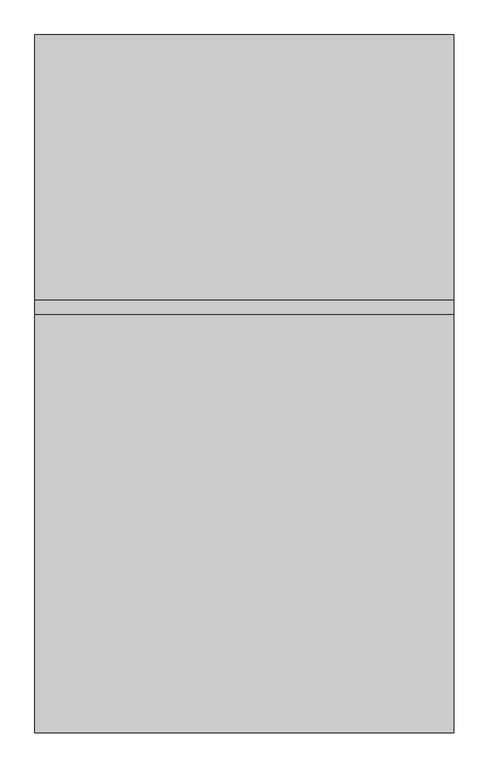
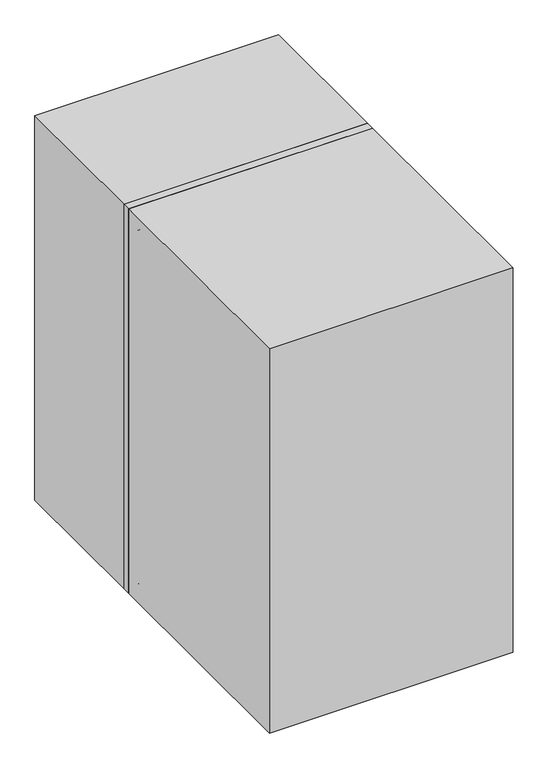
"""IFC4 building model written with IfcOpenShell, lengths in millimetres: electric distribution board geometry, НВО_НавесныеШкафыПрозрачнаяДверца_DKC : 400х600х1000 мм (ГхШхВ)."""

from ifc_helpers import new_model, si_unit, frame, origin, place, context, project, spatial, polyline, circle_curve, outline, extrude, faceted_brep, source, transform, mapped, element, save
from ifc_brep_helpers import plane_surface, cylinder_surface, revolved_surface, advanced_brep


def electric_distribution_board_64f9faa2(model_context):
    return source(origin(), model_context, "Body", "SolidModel", [
        advanced_brep(
        [(-270.4361714, -402.0, 1545.2522548), (-262.7599567, -402.0, 1545.2522548), (-259.2737072, -402.0, 1545.9237849), (-256.2188087, -402.0, 1550.0), (-259.2737072, -402.0, 1554.0762151), (-262.7599567, -402.0, 1554.7477452), (-270.4361714, -402.0, 1554.7477452), (-266.8662202, -402.0, 1553.4305842), (-264.3065187, -402.0, 1553.4305842), (-261.256417, -402.0, 1552.8023319), (-260.1514932, -402.0, 1551.4095765), (-260.0, -402.0, 1550.0), (-260.1514932, -402.0, 1548.5904235), (-261.256417, -402.0, 1547.1976681), (-264.3065187, -402.0, 1546.5694158), (-266.8662202, -402.0, 1546.5694158), (-270.4361714, -400.0, 1545.2522548), (-270.4361714, -400.0, 1554.7477452), (-262.7599567, -400.0, 1554.7477452), (-259.2737072, -400.0, 1554.0762151), (-256.2188087, -400.0, 1550.0), (-259.2737072, -400.0, 1545.9237849), (-262.7599567, -400.0, 1545.2522548), (-266.8662202, -400.0, 1553.4305842), (-266.8662202, -400.0, 1546.5694158), (-264.3065187, -400.0, 1546.5694158), (-261.256417, -400.0, 1547.1976681), (-260.1514932, -400.0, 1548.5904235), (-260.0, -400.0, 1550.0), (-260.1514932, -400.0, 1551.4095765), (-261.256417, -400.0, 1552.8023319), (-264.3065187, -400.0, 1553.4305842)],
        [
            (0, 1),
            (1, 2, circle_curve(frame((-262.7599567, -402.0, 1554.6374537), z_axis=(0.0, -1.0, 0.0), x_axis=(1.0, 0.0, 0.0)), 9.3851989)),
            (2, 3, circle_curve(frame((-261.0924825, -402.0, 1550.4697033), z_axis=(0.0, -1.0, 0.0), x_axis=(1.0, 0.0, 0.0)), 4.8962555)),
            (3, 4, circle_curve(frame((-261.0924825, -402.0, 1549.5302967), z_axis=(0.0, -1.0, 0.0), x_axis=(1.0, 0.0, 0.0)), 4.8962555)),
            (4, 5, circle_curve(frame((-262.7599567, -402.0, 1545.3625463), z_axis=(0.0, -1.0, 0.0), x_axis=(1.0, 0.0, 0.0)), 9.3851989)),
            (5, 6),
            (6, 0),
            (7, 8),
            (8, 9, circle_curve(frame((-264.3065187, -402.0, 1545.7124901), z_axis=(0.0, 1.0, 0.0), x_axis=(1.0, 0.0, 0.0)), 7.7180942)),
            (9, 10, circle_curve(frame((-261.9974842, -402.0, 1551.0797503), z_axis=(0.0, 1.0, 0.0), x_axis=(1.0, 0.0, 0.0)), 1.8752248)),
            (10, 11, circle_curve(frame((-270.1649135, -402.0, 1549.6204625), z_axis=(0.0, 1.0, 0.0), x_axis=(1.0, 0.0, 0.0)), 10.1719966)),
            (11, 12, circle_curve(frame((-270.1649135, -402.0, 1550.3795375), z_axis=(0.0, 1.0, 0.0), x_axis=(1.0, 0.0, 0.0)), 10.1719966)),
            (12, 13, circle_curve(frame((-261.9974842, -402.0, 1548.9202497), z_axis=(0.0, 1.0, 0.0), x_axis=(1.0, 0.0, 0.0)), 1.8752248)),
            (13, 14, circle_curve(frame((-264.3065187, -402.0, 1554.2875099), z_axis=(0.0, 1.0, 0.0), x_axis=(1.0, 0.0, 0.0)), 7.7180942)),
            (14, 15),
            (15, 7),
            (16, 17),
            (17, 18),
            (18, 19, circle_curve(frame((-262.7599567, -400.0, 1545.3625463), z_axis=(0.0, 1.0, 0.0), x_axis=(1.0, 0.0, 0.0)), 9.3851989)),
            (19, 20, circle_curve(frame((-261.0924825, -400.0, 1549.5302967), z_axis=(0.0, 1.0, 0.0), x_axis=(1.0, 0.0, 0.0)), 4.8962555)),
            (20, 21, circle_curve(frame((-261.0924825, -400.0, 1550.4697033), z_axis=(0.0, 1.0, 0.0), x_axis=(1.0, 0.0, 0.0)), 4.8962555)),
            (21, 22, circle_curve(frame((-262.7599567, -400.0, 1554.6374537), z_axis=(0.0, 1.0, 0.0), x_axis=(1.0, 0.0, 0.0)), 9.3851989)),
            (22, 16),
            (23, 24),
            (24, 25),
            (25, 26, circle_curve(frame((-264.3065187, -400.0, 1554.2875099), z_axis=(0.0, -1.0, 0.0), x_axis=(1.0, 0.0, 0.0)), 7.7180942)),
            (26, 27, circle_curve(frame((-261.9974842, -400.0, 1548.9202497), z_axis=(0.0, -1.0, 0.0), x_axis=(1.0, 0.0, 0.0)), 1.8752248)),
            (27, 28, circle_curve(frame((-270.1649135, -400.0, 1550.3795375), z_axis=(0.0, -1.0, 0.0), x_axis=(1.0, 0.0, 0.0)), 10.1719966)),
            (28, 29, circle_curve(frame((-270.1649135, -400.0, 1549.6204625), z_axis=(0.0, -1.0, 0.0), x_axis=(1.0, 0.0, 0.0)), 10.1719966)),
            (29, 30, circle_curve(frame((-261.9974842, -400.0, 1551.0797503), z_axis=(0.0, -1.0, 0.0), x_axis=(1.0, 0.0, 0.0)), 1.8752248)),
            (30, 31, circle_curve(frame((-264.3065187, -400.0, 1545.7124901), z_axis=(0.0, -1.0, 0.0), x_axis=(1.0, 0.0, 0.0)), 7.7180942)),
            (31, 23),
            (0, 16),
            (22, 1),
            (21, 2),
            (20, 3),
            (19, 4),
            (18, 5),
            (17, 6),
            (7, 23),
            (31, 8),
            (30, 9),
            (29, 10),
            (28, 11),
            (27, 12),
            (26, 13),
            (25, 14),
            (24, 15),
        ],
        [
            plane_surface(frame((-896.3609782, -402.0, 1545.2522548), z_axis=(0.0, -1.0, 0.0), x_axis=(1.0, 0.0, 0.0))),
            plane_surface(frame((-896.3609782, -400.0, 1545.2522548), z_axis=(0.0, 1.0, 0.0), x_axis=(-1.0, 0.0, 0.0))),
            plane_surface(frame((-270.4361714, -402.0, 1545.2522548), z_axis=(0.0, 0.0, -1.0), x_axis=(0.0, 1.0, 0.0))),
            cylinder_surface(frame((-262.7599567, -400.0, 1554.6374537), z_axis=(0.0, -1.0, 0.0), x_axis=(1.0, 0.0, 0.0)), 9.3851989),
            cylinder_surface(frame((-261.0924825, -400.0, 1550.4697033), z_axis=(0.0, -1.0, 0.0), x_axis=(1.0, 0.0, 0.0)), 4.8962555),
            cylinder_surface(frame((-261.0924825, -400.0, 1549.5302967), z_axis=(0.0, -1.0, 0.0), x_axis=(1.0, 0.0, 0.0)), 4.8962555),
            cylinder_surface(frame((-262.7599567, -400.0, 1545.3625463), z_axis=(0.0, -1.0, 0.0), x_axis=(1.0, 0.0, 0.0)), 9.3851989),
            plane_surface(frame((-262.7599567, -402.0, 1554.7477452), z_axis=(0.0, 0.0, 1.0), x_axis=(0.0, 1.0, 0.0))),
            plane_surface(frame((-270.4361714, -402.0, 1554.7477452), z_axis=(-1.0, 0.0, 0.0), x_axis=(0.0, 1.0, 0.0))),
            plane_surface(frame((-266.8662202, -402.0, 1553.4305842), z_axis=(0.0, 0.0, -1.0), x_axis=(0.0, 1.0, 0.0))),
            revolved_surface(polyline([(-256.58842450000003, -400.0, 1545.7124901), (-256.58842450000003, -402.0, 1545.7124901)]), (-264.3065187, -400.0, 1545.7124901), (0.0, 1.0, 0.0)),
            revolved_surface(polyline([(-260.12225939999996, -400.0, 1551.0797503), (-260.12225939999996, -402.0, 1551.0797503)]), (-261.9974842, -400.0, 1551.0797503), (0.0, 1.0, 0.0)),
            revolved_surface(polyline([(-259.9929169, -400.0, 1549.6204625), (-259.9929169, -402.0, 1549.6204625)]), (-270.1649135, -400.0, 1549.6204625), (0.0, 1.0, 0.0)),
            revolved_surface(polyline([(-259.9929169, -400.0, 1550.3795375), (-259.9929169, -402.0, 1550.3795375)]), (-270.1649135, -400.0, 1550.3795375), (0.0, 1.0, 0.0)),
            revolved_surface(polyline([(-260.12225939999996, -400.0, 1548.9202497), (-260.12225939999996, -402.0, 1548.9202497)]), (-261.9974842, -400.0, 1548.9202497), (0.0, 1.0, 0.0)),
            revolved_surface(polyline([(-256.58842450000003, -400.0, 1554.2875099), (-256.58842450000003, -402.0, 1554.2875099)]), (-264.3065187, -400.0, 1554.2875099), (0.0, 1.0, 0.0)),
            plane_surface(frame((-264.3065187, -402.0, 1546.5694158), z_axis=(0.0, 0.0, 1.0), x_axis=(0.0, 1.0, 0.0))),
            plane_surface(frame((-266.8662202, -402.0, 1546.5694158), z_axis=(1.0, 0.0, 0.0), x_axis=(0.0, 1.0, 0.0))),
        ],
        [
            (0, [[1, 2, 3, 4, 5, 6, 7], [8, 9, 10, 11, 12, 13, 14, 15, 16]]),
            (1, [[17, 18, 19, 20, 21, 22, 23], [24, 25, 26, 27, 28, 29, 30, 31, 32]]),
            (2, [[-1, 33, -23, 34]]),
            (3, [[-2, -34, -22, 35]]),
            (4, [[-3, -35, -21, 36]]),
            (5, [[-4, -36, -20, 37]]),
            (6, [[-5, -37, -19, 38]]),
            (7, [[-6, -38, -18, 39]]),
            (8, [[-7, -39, -17, -33]]),
            (9, [[-8, 40, -32, 41]]),
            (10, [[-9, -41, -31, 42]]),
            (11, [[-10, -42, -30, 43]]),
            (12, [[-11, -43, -29, 44]]),
            (13, [[-12, -44, -28, 45]]),
            (14, [[-13, -45, -27, 46]]),
            (15, [[-14, -46, -26, 47]]),
            (16, [[-15, -47, -25, 48]]),
            (17, [[-16, -48, -24, -40]]),
        ],
    ),
        faceted_brep([(-254.3848727, -402.0, 1554.7477452), (-254.3848727, -402.0, 1545.2522548), (-250.9908575, -402.0, 1545.2522548), (-250.9908575, -402.0, 1549.2401383), (-246.444158, -402.0, 1545.2522548), (-242.3120204, -402.0, 1545.2522548), (-248.1731846, -402.0, 1550.5384249), (-242.4434669, -402.0, 1554.7477452), (-245.0016173, -402.0, 1554.7477452), (-251.0245618, -402.0, 1550.2876655), (-251.0245618, -402.0, 1554.7477452), (-254.3848727, -400.0, 1554.7477452), (-251.0245618, -400.0, 1554.7477452), (-251.0245618, -400.0, 1550.2876655), (-245.0016173, -400.0, 1554.7477452), (-242.4434669, -400.0, 1554.7477452), (-248.1731846, -400.0, 1550.5384249), (-242.3120204, -400.0, 1545.2522548), (-246.444158, -400.0, 1545.2522548), (-250.9908575, -400.0, 1549.2401383), (-250.9908575, -400.0, 1545.2522548), (-254.3848727, -400.0, 1545.2522548)], [[[0, 1, 2, 3, 4, 5, 6, 7, 8, 9, 10]], [[11, 12, 13, 14, 15, 16, 17, 18, 19, 20, 21]], [[1, 0, 11, 21]], [[2, 1, 21, 20]], [[3, 2, 20, 19]], [[4, 3, 19, 18]], [[5, 4, 18, 17]], [[6, 5, 17, 16]], [[7, 6, 16, 15]], [[8, 7, 15, 14]], [[9, 8, 14, 13]], [[10, 9, 13, 12]], [[0, 10, 12, 11]]]),
        advanced_brep(
        [(-229.5347498, -402.0, 1554.0743349), (-237.0604615, -402.0, 1554.6196872), (-240.6760845, -402.0, 1553.3117677), (-242.46478, -402.0, 1551.6421758), (-242.917184, -402.0, 1550.0), (-240.8053031, -402.0, 1546.4762827), (-230.134685, -402.0, 1545.7901742), (-229.6190256, -402.0, 1547.2760981), (-238.0850098, -402.0, 1547.5933204), (-238.9615532, -402.0, 1550.8831991), (-237.1563813, -402.0, 1552.8847256), (-230.1950738, -402.0, 1552.1645049), (-229.5347498, -400.0, 1554.0743349), (-230.1950738, -400.0, 1552.1645049), (-237.1563813, -400.0, 1552.8847256), (-238.9615532, -400.0, 1550.8831991), (-238.0850098, -400.0, 1547.5933204), (-229.6190256, -400.0, 1547.2760981), (-230.134685, -400.0, 1545.7901742), (-240.8053031, -400.0, 1546.4762827), (-242.917184, -400.0, 1550.0), (-242.46478, -400.0, 1551.6421758), (-240.6760845, -400.0, 1553.3117677), (-237.0604615, -400.0, 1554.6196872)],
        [
            (0, 1, circle_curve(frame((-234.3366932, -402.0, 1540.0078894), z_axis=(0.0, -1.0, 0.0), x_axis=(1.0, 0.0, 0.0)), 14.8634972)),
            (1, 2, circle_curve(frame((-234.8869328, -402.0, 1542.9596787), z_axis=(0.0, -1.0, 0.0), x_axis=(1.0, 0.0, 0.0)), 11.860861)),
            (2, 3, circle_curve(frame((-238.1749446, -402.0, 1548.8392604), z_axis=(0.0, -1.0, 0.0), x_axis=(1.0, 0.0, 0.0)), 5.1243559)),
            (3, 4, circle_curve(frame((-240.1270803, -402.0, 1550.1147571), z_axis=(0.0, -1.0, 0.0), x_axis=(1.0, 0.0, 0.0)), 2.7924627)),
            (4, 5, circle_curve(frame((-238.6271352, -402.0, 1550.1764499), z_axis=(0.0, -1.0, 0.0), x_axis=(1.0, 0.0, 0.0)), 4.2936759)),
            (5, 6, circle_curve(frame((-234.7910077, -402.0, 1556.6930797), z_axis=(0.0, -1.0, 0.0), x_axis=(1.0, 0.0, 0.0)), 11.8555763)),
            (6, 7),
            (7, 8, circle_curve(frame((-233.6307387, -402.0, 1553.3401731), z_axis=(0.0, 1.0, 0.0), x_axis=(1.0, 0.0, 0.0)), 7.2709591)),
            (8, 9, circle_curve(frame((-236.3641737, -402.0, 1549.8135247), z_axis=(0.0, 1.0, 0.0), x_axis=(1.0, 0.0, 0.0)), 2.8090184)),
            (9, 10, circle_curve(frame((-235.2583969, -402.0, 1549.3581346), z_axis=(0.0, 1.0, 0.0), x_axis=(1.0, 0.0, 0.0)), 4.0048956)),
            (10, 11, circle_curve(frame((-234.2057006, -402.0, 1547.4021495), z_axis=(0.0, 1.0, 0.0), x_axis=(1.0, 0.0, 0.0)), 6.2261671)),
            (11, 0),
            (12, 13),
            (13, 14, circle_curve(frame((-234.2057006, -400.0, 1547.4021495), z_axis=(0.0, -1.0, 0.0), x_axis=(1.0, 0.0, 0.0)), 6.2261671)),
            (14, 15, circle_curve(frame((-235.2583969, -400.0, 1549.3581346), z_axis=(0.0, -1.0, 0.0), x_axis=(1.0, 0.0, 0.0)), 4.0048956)),
            (15, 16, circle_curve(frame((-236.3641737, -400.0, 1549.8135247), z_axis=(0.0, -1.0, 0.0), x_axis=(1.0, 0.0, 0.0)), 2.8090184)),
            (16, 17, circle_curve(frame((-233.6307387, -400.0, 1553.3401731), z_axis=(0.0, -1.0, 0.0), x_axis=(1.0, 0.0, 0.0)), 7.2709591)),
            (17, 18),
            (18, 19, circle_curve(frame((-234.7910077, -400.0, 1556.6930797), z_axis=(0.0, 1.0, 0.0), x_axis=(1.0, 0.0, 0.0)), 11.8555763)),
            (19, 20, circle_curve(frame((-238.6271352, -400.0, 1550.1764499), z_axis=(0.0, 1.0, 0.0), x_axis=(1.0, 0.0, 0.0)), 4.2936759)),
            (20, 21, circle_curve(frame((-240.1270803, -400.0, 1550.1147571), z_axis=(0.0, 1.0, 0.0), x_axis=(1.0, 0.0, 0.0)), 2.7924627)),
            (21, 22, circle_curve(frame((-238.1749446, -400.0, 1548.8392604), z_axis=(0.0, 1.0, 0.0), x_axis=(1.0, 0.0, 0.0)), 5.1243559)),
            (22, 23, circle_curve(frame((-234.8869328, -400.0, 1542.9596787), z_axis=(0.0, 1.0, 0.0), x_axis=(1.0, 0.0, 0.0)), 11.860861)),
            (23, 12, circle_curve(frame((-234.3366932, -400.0, 1540.0078894), z_axis=(0.0, 1.0, 0.0), x_axis=(1.0, 0.0, 0.0)), 14.8634972)),
            (0, 12),
            (23, 1),
            (22, 2),
            (21, 3),
            (20, 4),
            (19, 5),
            (18, 6),
            (17, 7),
            (16, 8),
            (15, 9),
            (14, 10),
            (13, 11),
        ],
        [
            plane_surface(frame((-896.3609782, -402.0, 1545.2522548), z_axis=(0.0, -1.0, 0.0), x_axis=(1.0, 0.0, 0.0))),
            plane_surface(frame((-896.3609782, -400.0, 1545.2522548), z_axis=(0.0, 1.0, 0.0), x_axis=(-1.0, 0.0, 0.0))),
            cylinder_surface(frame((-234.3366932, -400.0, 1540.0078894), z_axis=(0.0, -1.0, 0.0), x_axis=(1.0, 0.0, 0.0)), 14.8634972),
            cylinder_surface(frame((-234.8869328, -400.0, 1542.9596787), z_axis=(0.0, -1.0, 0.0), x_axis=(1.0, 0.0, 0.0)), 11.860861),
            cylinder_surface(frame((-238.1749446, -400.0, 1548.8392604), z_axis=(0.0, -1.0, 0.0), x_axis=(1.0, 0.0, 0.0)), 5.1243559),
            cylinder_surface(frame((-240.1270803, -400.0, 1550.1147571), z_axis=(0.0, -1.0, 0.0), x_axis=(1.0, 0.0, 0.0)), 2.7924627),
            cylinder_surface(frame((-238.6271352, -400.0, 1550.1764499), z_axis=(0.0, -1.0, 0.0), x_axis=(1.0, 0.0, 0.0)), 4.2936759),
            cylinder_surface(frame((-234.7910077, -400.0, 1556.6930797), z_axis=(0.0, -1.0, 0.0), x_axis=(1.0, 0.0, 0.0)), 11.8555763),
            plane_surface(frame((-230.134685, -402.0, 1545.7901742), z_axis=(0.9447300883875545, 0.0, -0.3278491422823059), x_axis=(0.0, 1.0, 0.0))),
            revolved_surface(polyline([(-226.3597796, -400.0, 1553.3401731), (-226.3597796, -402.0, 1553.3401731)]), (-233.6307387, -400.0, 1553.3401731), (0.0, 1.0, 0.0)),
            revolved_surface(polyline([(-233.5551553, -400.0, 1549.8135247), (-233.5551553, -402.0, 1549.8135247)]), (-236.3641737, -400.0, 1549.8135247), (0.0, 1.0, 0.0)),
            revolved_surface(polyline([(-231.2535013, -400.0, 1549.3581346), (-231.2535013, -402.0, 1549.3581346)]), (-235.2583969, -400.0, 1549.3581346), (0.0, 1.0, 0.0)),
            revolved_surface(polyline([(-227.9795335, -400.0, 1547.4021495), (-227.9795335, -402.0, 1547.4021495)]), (-234.2057006, -400.0, 1547.4021495), (0.0, 1.0, 0.0)),
            plane_surface(frame((-230.1950738, -402.0, 1552.1645049), z_axis=(0.9451039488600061, 0.0, -0.3267698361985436), x_axis=(0.0, 1.0, 0.0))),
        ],
        [
            (0, [[1, 2, 3, 4, 5, 6, 7, 8, 9, 10, 11, 12]]),
            (1, [[13, 14, 15, 16, 17, 18, 19, 20, 21, 22, 23, 24]]),
            (2, [[-1, 25, -24, 26]]),
            (3, [[-2, -26, -23, 27]]),
            (4, [[-3, -27, -22, 28]]),
            (5, [[-4, -28, -21, 29]]),
            (6, [[-5, -29, -20, 30]]),
            (7, [[-6, -30, -19, 31]]),
            (8, [[-7, -31, -18, 32]]),
            (9, [[-8, -32, -17, 33]]),
            (10, [[-9, -33, -16, 34]]),
            (11, [[-10, -34, -15, 35]]),
            (12, [[-11, -35, -14, 36]]),
            (13, [[-12, -36, -13, -25]]),
        ],
    ),
        advanced_brep(
        [(-276.0844115, -402.0, 1553.9810141), (-276.8556522, -402.0, 1554.7522548), (-288.8921838, -402.0, 1554.7522548), (-289.8962172, -402.0, 1553.7482214), (-289.8962172, -402.0, 1546.2525173), (-288.8959546, -402.0, 1545.2522548), (-276.7257862, -402.0, 1545.2522548), (-272.7201443, -402.0, 1547.2967122), (-272.7201443, -402.0, 1548.5784181), (-282.7799001, -402.0, 1548.5784181), (-282.7799001, -402.0, 1547.524661), (-280.8520843, -402.0, 1546.0055647), (-286.7056091, -402.0, 1546.0055647), (-286.7056091, -402.0, 1553.9989449), (-277.2764216, -402.0, 1553.9989449), (-277.2764216, -402.0, 1553.1225561), (-276.0844115, -402.0, 1553.1225561), (-276.0844115, -400.0, 1553.9810141), (-276.0844115, -400.0, 1553.1225561), (-277.2764216, -400.0, 1553.1225561), (-277.2764216, -400.0, 1553.9989449), (-286.7056091, -400.0, 1553.9989449), (-286.7056091, -400.0, 1546.0055647), (-280.8520843, -400.0, 1546.0055647), (-282.7799001, -400.0, 1547.524661), (-282.7799001, -400.0, 1548.5784181), (-272.7201443, -400.0, 1548.5784181), (-272.7201443, -400.0, 1547.2967122), (-276.7257862, -400.0, 1545.2522548), (-288.8959546, -400.0, 1545.2522548), (-289.8962172, -400.0, 1546.2525173), (-289.8962172, -400.0, 1553.7482214), (-288.8921838, -400.0, 1554.7522548), (-276.8556522, -400.0, 1554.7522548)],
        [
            (0, 1, circle_curve(frame((-276.8556522, -402.0, 1553.9810141), z_axis=(0.0, -1.0, 0.0), x_axis=(1.0, 0.0, 0.0)), 0.7712407)),
            (1, 2),
            (2, 3, circle_curve(frame((-288.8921838, -402.0, 1553.7482214), z_axis=(0.0, -1.0, 0.0), x_axis=(1.0, 0.0, 0.0)), 1.0040334)),
            (3, 4),
            (4, 5, circle_curve(frame((-288.8959546, -402.0, 1546.2525173), z_axis=(0.0, -1.0, 0.0), x_axis=(1.0, 0.0, 0.0)), 1.0002626)),
            (5, 6),
            (6, 7, circle_curve(frame((-276.7257862, -402.0, 1550.1985482), z_axis=(0.0, -1.0, 0.0), x_axis=(1.0, 0.0, 0.0)), 4.9462935)),
            (7, 8),
            (8, 9, circle_curve(frame((-277.7500222, -402.0, 1553.048804), z_axis=(0.0, 1.0, 0.0), x_axis=(1.0, 0.0, 0.0)), 6.7293403)),
            (9, 10),
            (10, 11, circle_curve(frame((-280.8520843, -402.0, 1547.9883644), z_axis=(0.0, -1.0, 0.0), x_axis=(1.0, 0.0, 0.0)), 1.9827998)),
            (11, 12),
            (12, 13),
            (13, 14),
            (14, 15),
            (15, 16),
            (16, 0),
            (17, 18),
            (18, 19),
            (19, 20),
            (20, 21),
            (21, 22),
            (22, 23),
            (23, 24, circle_curve(frame((-280.8520843, -400.0, 1547.9883644), z_axis=(0.0, 1.0, 0.0), x_axis=(1.0, 0.0, 0.0)), 1.9827998)),
            (24, 25),
            (25, 26, circle_curve(frame((-277.7500222, -400.0, 1553.048804), z_axis=(0.0, -1.0, 0.0), x_axis=(1.0, 0.0, 0.0)), 6.7293403)),
            (26, 27),
            (27, 28, circle_curve(frame((-276.7257862, -400.0, 1550.1985482), z_axis=(0.0, 1.0, 0.0), x_axis=(1.0, 0.0, 0.0)), 4.9462935)),
            (28, 29),
            (29, 30, circle_curve(frame((-288.8959546, -400.0, 1546.2525173), z_axis=(0.0, 1.0, 0.0), x_axis=(1.0, 0.0, 0.0)), 1.0002626)),
            (30, 31),
            (31, 32, circle_curve(frame((-288.8921838, -400.0, 1553.7482214), z_axis=(0.0, 1.0, 0.0), x_axis=(1.0, 0.0, 0.0)), 1.0040334)),
            (32, 33),
            (33, 17, circle_curve(frame((-276.8556522, -400.0, 1553.9810141), z_axis=(0.0, 1.0, 0.0), x_axis=(1.0, 0.0, 0.0)), 0.7712407)),
            (1, 33),
            (32, 2),
            (3, 31),
            (30, 4),
            (5, 29),
            (28, 6),
            (27, 7),
            (10, 24),
            (23, 11),
            (22, 12),
            (21, 13),
            (20, 14),
            (19, 15),
            (18, 16),
            (17, 0),
            (26, 8),
            (25, 9),
        ],
        [
            plane_surface(frame((-896.3609782, -402.0, 1545.2522548), z_axis=(0.0, -1.0, 0.0), x_axis=(1.0, 0.0, 0.0))),
            plane_surface(frame((-896.3609782, -400.0, 1545.2522548), z_axis=(0.0, 1.0, 0.0), x_axis=(-1.0, 0.0, 0.0))),
            plane_surface(frame((-276.8556522, -402.0, 1554.7522548), z_axis=(0.0, 0.0, 1.0), x_axis=(0.0, 1.0, 0.0))),
            plane_surface(frame((-289.8962172, -402.0, 1553.7482214), z_axis=(-1.0, 0.0, 0.0), x_axis=(0.0, 1.0, 0.0))),
            plane_surface(frame((-288.8959546, -402.0, 1545.2522548), z_axis=(0.0, 0.0, -1.0), x_axis=(0.0, 1.0, 0.0))),
            cylinder_surface(frame((-276.7257862, -400.0, 1550.1985482), z_axis=(0.0, -1.0, 0.0), x_axis=(1.0, 0.0, 0.0)), 4.9462935),
            cylinder_surface(frame((-280.8520843, -400.0, 1547.9883644), z_axis=(0.0, -1.0, 0.0), x_axis=(1.0, 0.0, 0.0)), 1.9827998),
            plane_surface(frame((-280.8520843, -402.0, 1546.0055647), z_axis=(0.0, 0.0, 1.0), x_axis=(0.0, 1.0, 0.0))),
            plane_surface(frame((-286.7056091, -402.0, 1546.0055647), z_axis=(1.0, 0.0, 0.0), x_axis=(0.0, 1.0, 0.0))),
            plane_surface(frame((-286.7056091, -402.0, 1553.9989449), z_axis=(0.0, 0.0, -1.0), x_axis=(0.0, 1.0, 0.0))),
            plane_surface(frame((-277.2764216, -402.0, 1553.9989449), z_axis=(-1.0, 0.0, 0.0), x_axis=(0.0, 1.0, 0.0))),
            plane_surface(frame((-277.2764216, -402.0, 1553.1225561), z_axis=(0.0, 0.0, -1.0), x_axis=(0.0, 1.0, 0.0))),
            plane_surface(frame((-276.0844115, -402.0, 1553.1225561), z_axis=(1.0, 0.0, 0.0), x_axis=(0.0, 1.0, 0.0))),
            cylinder_surface(frame((-276.8556522, -400.0, 1553.9810141), z_axis=(0.0, -1.0, 0.0), x_axis=(1.0, 0.0, 0.0)), 0.7712407),
            cylinder_surface(frame((-288.8921838, -400.0, 1553.7482214), z_axis=(0.0, -1.0, 0.0), x_axis=(1.0, 0.0, 0.0)), 1.0040334),
            cylinder_surface(frame((-288.8959546, -400.0, 1546.2525173), z_axis=(0.0, -1.0, 0.0), x_axis=(1.0, 0.0, 0.0)), 1.0002626),
            plane_surface(frame((-272.7201443, -402.0, 1547.2967122), z_axis=(1.0, 0.0, 0.0), x_axis=(0.0, 1.0, 0.0))),
            revolved_surface(polyline([(-271.0206819, -400.0, 1553.048804), (-271.0206819, -402.0, 1553.048804)]), (-277.7500222, -400.0, 1553.048804), (0.0, 1.0, 0.0)),
            plane_surface(frame((-282.7799001, -402.0, 1548.5784181), z_axis=(-1.0, 0.0, 0.0), x_axis=(0.0, 1.0, 0.0))),
        ],
        [
            (0, [[1, 2, 3, 4, 5, 6, 7, 8, 9, 10, 11, 12, 13, 14, 15, 16, 17]]),
            (1, [[18, 19, 20, 21, 22, 23, 24, 25, 26, 27, 28, 29, 30, 31, 32, 33, 34]]),
            (2, [[-2, 35, -33, 36]]),
            (3, [[-4, 37, -31, 38]]),
            (4, [[-6, 39, -29, 40]]),
            (5, [[-7, -40, -28, 41]]),
            (6, [[-11, 42, -24, 43]]),
            (7, [[-12, -43, -23, 44]]),
            (8, [[-13, -44, -22, 45]]),
            (9, [[-14, -45, -21, 46]]),
            (10, [[-15, -46, -20, 47]]),
            (11, [[-16, -47, -19, 48]]),
            (12, [[-17, -48, -18, 49]]),
            (13, [[-1, -49, -34, -35]]),
            (14, [[-3, -36, -32, -37]]),
            (15, [[-5, -38, -30, -39]]),
            (16, [[-8, -41, -27, 50]]),
            (17, [[-9, -50, -26, 51]]),
            (18, [[-10, -51, -25, -42]]),
        ],
    ),
        advanced_brep(
        [(-272.7201443, -402.0, 1549.1735802), (-272.7201443, -402.0, 1549.9609475), (-282.7799001, -402.0, 1549.9609475), (-282.7799001, -402.0, 1549.1735802), (-272.7201443, -400.0, 1549.1735802), (-282.7799001, -400.0, 1549.1735802), (-282.7799001, -400.0, 1549.9609475), (-272.7201443, -400.0, 1549.9609475)],
        [
            (0, 1),
            (1, 2, circle_curve(frame((-277.7500222, -402.0, 1555.0528216), z_axis=(0.0, 1.0, 0.0), x_axis=(1.0, 0.0, 0.0)), 7.1572937)),
            (2, 3),
            (3, 0, circle_curve(frame((-277.7500222, -402.0, 1553.6469573), z_axis=(0.0, -1.0, 0.0), x_axis=(1.0, 0.0, 0.0)), 6.7313279)),
            (4, 5, circle_curve(frame((-277.7500222, -400.0, 1553.6469573), z_axis=(0.0, 1.0, 0.0), x_axis=(1.0, 0.0, 0.0)), 6.7313279)),
            (5, 6),
            (6, 7, circle_curve(frame((-277.7500222, -400.0, 1555.0528216), z_axis=(0.0, -1.0, 0.0), x_axis=(1.0, 0.0, 0.0)), 7.1572937)),
            (7, 4),
            (0, 4),
            (7, 1),
            (6, 2),
            (5, 3),
        ],
        [
            plane_surface(frame((-896.3609782, -402.0, 1545.2522548), z_axis=(0.0, -1.0, 0.0), x_axis=(1.0, 0.0, 0.0))),
            plane_surface(frame((-896.3609782, -400.0, 1545.2522548), z_axis=(0.0, 1.0, 0.0), x_axis=(-1.0, 0.0, 0.0))),
            plane_surface(frame((-272.7201443, -402.0, 1549.1735802), z_axis=(1.0, 0.0, 0.0), x_axis=(0.0, 1.0, 0.0))),
            revolved_surface(polyline([(-270.59272849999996, -400.0, 1555.0528216), (-270.59272849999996, -402.0, 1555.0528216)]), (-277.7500222, -400.0, 1555.0528216), (0.0, 1.0, 0.0)),
            plane_surface(frame((-282.7799001, -402.0, 1549.9609475), z_axis=(-1.0, 0.0, 0.0), x_axis=(0.0, 1.0, 0.0))),
            cylinder_surface(frame((-277.7500222, -400.0, 1553.6469573), z_axis=(0.0, -1.0, 0.0), x_axis=(1.0, 0.0, 0.0)), 6.7313279),
        ],
        [
            (0, [[1, 2, 3, 4]]),
            (1, [[5, 6, 7, 8]]),
            (2, [[-1, 9, -8, 10]]),
            (3, [[-2, -10, -7, 11]]),
            (4, [[-3, -11, -6, 12]]),
            (5, [[-4, -12, -5, -9]]),
        ],
    ),
        advanced_brep(
        [(-273.4612939, -402.0, 1549.8365314), (-281.8321146, -402.0, 1549.892123), (-281.2786755, -402.0, 1549.3386839), (-274.1148323, -402.0, 1549.3386839), (-273.4612939, -400.0, 1549.8365314), (-274.1148323, -400.0, 1549.3386839), (-281.2786755, -400.0, 1549.3386839), (-281.8321146, -400.0, 1549.892123)],
        [
            (0, 1, circle_curve(frame((-277.6745713, -402.0, 1545.6681942), z_axis=(0.0, -1.0, 0.0), x_axis=(1.0, 0.0, 0.0)), 5.9267817)),
            (1, 2),
            (2, 3, circle_curve(frame((-277.6967539, -402.0, 1544.0800223), z_axis=(0.0, 1.0, 0.0), x_axis=(1.0, 0.0, 0.0)), 6.3626791)),
            (3, 0),
            (4, 5),
            (5, 6, circle_curve(frame((-277.6967539, -400.0, 1544.0800223), z_axis=(0.0, -1.0, 0.0), x_axis=(1.0, 0.0, 0.0)), 6.3626791)),
            (6, 7),
            (7, 4, circle_curve(frame((-277.6745713, -400.0, 1545.6681942), z_axis=(0.0, 1.0, 0.0), x_axis=(1.0, 0.0, 0.0)), 5.9267817)),
            (0, 4),
            (7, 1),
            (6, 2),
            (5, 3),
        ],
        [
            plane_surface(frame((-896.3609782, -402.0, 1545.2522548), z_axis=(0.0, -1.0, 0.0), x_axis=(1.0, 0.0, 0.0))),
            plane_surface(frame((-896.3609782, -400.0, 1545.2522548), z_axis=(0.0, 1.0, 0.0), x_axis=(-1.0, 0.0, 0.0))),
            cylinder_surface(frame((-277.6745713, -400.0, 1545.6681942), z_axis=(0.0, -1.0, 0.0), x_axis=(1.0, 0.0, 0.0)), 5.9267817),
            plane_surface(frame((-281.8321146, -402.0, 1549.892123), z_axis=(-0.7071067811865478, 0.0, -0.7071067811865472), x_axis=(0.0, 1.0, 0.0))),
            revolved_surface(polyline([(-271.3340748, -400.0, 1544.0800223), (-271.3340748, -402.0, 1544.0800223)]), (-277.6967539, -400.0, 1544.0800223), (0.0, 1.0, 0.0)),
            plane_surface(frame((-274.1148323, -402.0, 1549.3386839), z_axis=(0.6059765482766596, 0.0, -0.7954825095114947), x_axis=(0.0, 1.0, 0.0))),
        ],
        [
            (0, [[1, 2, 3, 4]]),
            (1, [[5, 6, 7, 8]]),
            (2, [[-1, 9, -8, 10]]),
            (3, [[-2, -10, -7, 11]]),
            (4, [[-3, -11, -6, 12]]),
            (5, [[-4, -12, -5, -9]]),
        ],
    ),
        advanced_brep(
        [(-274.4972128, -402.0, 1549.2646248), (-280.9134855, -402.0, 1549.2646248), (-280.0681193, -402.0, 1548.9146088), (-275.3251236, -402.0, 1548.9146088), (-274.4972128, -400.0, 1549.2646248), (-275.3251236, -400.0, 1548.9146088), (-280.0681193, -400.0, 1548.9146088), (-280.9134855, -400.0, 1549.2646248)],
        [
            (0, 1, circle_curve(frame((-277.7053491, -402.0, 1543.5765057), z_axis=(0.0, -1.0, 0.0), x_axis=(1.0, 0.0, 0.0)), 6.5304546)),
            (1, 2),
            (2, 3, circle_curve(frame((-277.6966214, -402.0, 1542.4429647), z_axis=(0.0, 1.0, 0.0), x_axis=(1.0, 0.0, 0.0)), 6.8924726)),
            (3, 0),
            (4, 5),
            (5, 6, circle_curve(frame((-277.6966214, -400.0, 1542.4429647), z_axis=(0.0, -1.0, 0.0), x_axis=(1.0, 0.0, 0.0)), 6.8924726)),
            (6, 7),
            (7, 4, circle_curve(frame((-277.7053491, -400.0, 1543.5765057), z_axis=(0.0, 1.0, 0.0), x_axis=(1.0, 0.0, 0.0)), 6.5304546)),
            (0, 4),
            (7, 1),
            (6, 2),
            (5, 3),
        ],
        [
            plane_surface(frame((-896.3609782, -402.0, 1545.2522548), z_axis=(0.0, -1.0, 0.0), x_axis=(1.0, 0.0, 0.0))),
            plane_surface(frame((-896.3609782, -400.0, 1545.2522548), z_axis=(0.0, 1.0, 0.0), x_axis=(-1.0, 0.0, 0.0))),
            cylinder_surface(frame((-277.7053491, -400.0, 1543.5765057), z_axis=(0.0, -1.0, 0.0), x_axis=(1.0, 0.0, 0.0)), 6.5304546),
            plane_surface(frame((-280.9134855, -402.0, 1549.2646248), z_axis=(-0.3825470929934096, 0.0, -0.9239359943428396), x_axis=(0.0, 1.0, 0.0))),
            revolved_surface(polyline([(-270.8041488, -400.0, 1542.4429647), (-270.8041488, -402.0, 1542.4429647)]), (-277.6966214, -400.0, 1542.4429647), (0.0, 1.0, 0.0)),
            plane_surface(frame((-275.3251236, -402.0, 1548.9146088), z_axis=(0.38940033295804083, 0.0, -0.9210686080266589), x_axis=(0.0, 1.0, 0.0))),
        ],
        [
            (0, [[1, 2, 3, 4]]),
            (1, [[5, 6, 7, 8]]),
            (2, [[-1, 9, -8, 10]]),
            (3, [[-2, -10, -7, 11]]),
            (4, [[-3, -11, -6, 12]]),
            (5, [[-4, -12, -5, -9]]),
        ],
    ),
        advanced_brep(
        [(-273.3219133, -402.0, 1549.9744254), (-272.6079342, -402.0, 1550.6884044), (-282.683641, -402.0, 1550.7458455), (-281.9696515, -402.0, 1550.031856), (-273.3219133, -400.0, 1549.9744254), (-281.9696515, -400.0, 1550.031856), (-282.683641, -400.0, 1550.7458455), (-272.6079342, -400.0, 1550.6884044)],
        [
            (0, 1),
            (1, 2, circle_curve(frame((-277.6745713, -402.0, 1545.6681942), z_axis=(0.0, -1.0, 0.0), x_axis=(1.0, 0.0, 0.0)), 7.1325536)),
            (2, 3),
            (3, 0, circle_curve(frame((-277.6745713, -402.0, 1545.6681942), z_axis=(0.0, 1.0, 0.0), x_axis=(1.0, 0.0, 0.0)), 6.1228472)),
            (4, 5, circle_curve(frame((-277.6745713, -400.0, 1545.6681942), z_axis=(0.0, -1.0, 0.0), x_axis=(1.0, 0.0, 0.0)), 6.1228472)),
            (5, 6),
            (6, 7, circle_curve(frame((-277.6745713, -400.0, 1545.6681942), z_axis=(0.0, 1.0, 0.0), x_axis=(1.0, 0.0, 0.0)), 7.1325536)),
            (7, 4),
            (0, 4),
            (7, 1),
            (6, 2),
            (5, 3),
        ],
        [
            plane_surface(frame((-896.3609782, -402.0, 1545.2522548), z_axis=(0.0, -1.0, 0.0), x_axis=(1.0, 0.0, 0.0))),
            plane_surface(frame((-896.3609782, -400.0, 1545.2522548), z_axis=(0.0, 1.0, 0.0), x_axis=(-1.0, 0.0, 0.0))),
            plane_surface(frame((-273.3219133, -402.0, 1549.9744254), z_axis=(0.7071067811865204, 0.0, -0.7071067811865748), x_axis=(0.0, 1.0, 0.0))),
            cylinder_surface(frame((-277.6745713, -400.0, 1545.6681942), z_axis=(0.0, -1.0, 0.0), x_axis=(1.0, 0.0, 0.0)), 7.1325536),
            plane_surface(frame((-282.683641, -402.0, 1550.7458455), z_axis=(-0.7071067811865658, 0.0, -0.7071067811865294), x_axis=(0.0, 1.0, 0.0))),
            revolved_surface(polyline([(-271.5517241, -400.0, 1545.6681942), (-271.5517241, -402.0, 1545.6681942)]), (-277.6745713, -400.0, 1545.6681942), (0.0, 1.0, 0.0)),
        ],
        [
            (0, [[1, 2, 3, 4]]),
            (1, [[5, 6, 7, 8]]),
            (2, [[-1, 9, -8, 10]]),
            (3, [[-2, -10, -7, 11]]),
            (4, [[-3, -11, -6, 12]]),
            (5, [[-4, -12, -5, -9]]),
        ],
    ),
        advanced_brep(
        [(-280.0, -410.0, 1027.0), (-280.0, -410.0, 1053.0), (-280.0, -403.0, 1060.0), (-280.0, -400.0, 1060.0), (-280.0, -400.0, 1020.0), (-280.0, -403.0, 1020.0), (-240.0, -410.0, 1027.0), (-240.0, -403.0, 1020.0), (-240.0, -400.0, 1020.0), (-240.0, -400.0, 1060.0), (-240.0, -403.0, 1060.0), (-240.0, -410.0, 1053.0), (-270.0, -410.0, 1040.0), (-250.0, -410.0, 1040.0), (-250.0, -408.0, 1040.0), (-270.0, -408.0, 1040.0)],
        [
            (0, 1),
            (1, 2, circle_curve(frame((-280.0, -403.0, 1053.0), z_axis=(-1.0, 0.0, 0.0), x_axis=(0.0, 0.0, -1.0)), 7.0)),
            (2, 3),
            (3, 4),
            (4, 5),
            (5, 0, circle_curve(frame((-280.0, -403.0, 1027.0), z_axis=(-1.0, 0.0, 0.0), x_axis=(0.0, 0.0, -1.0)), 7.0)),
            (6, 7, circle_curve(frame((-240.0, -403.0, 1027.0), z_axis=(1.0, 0.0, 0.0), x_axis=(0.0, 0.0, -1.0)), 7.0)),
            (7, 8),
            (8, 9),
            (9, 10),
            (10, 11, circle_curve(frame((-240.0, -403.0, 1053.0), z_axis=(1.0, 0.0, 0.0), x_axis=(0.0, 0.0, -1.0)), 7.0)),
            (11, 6),
            (0, 6),
            (11, 1),
            (12, 13, circle_curve(frame((-260.0, -410.0, 1040.0), z_axis=(0.0, 1.0, 0.0), x_axis=(-1.0, 0.0, 0.0)), 10.0)),
            (13, 12, circle_curve(frame((-260.0, -410.0, 1040.0), z_axis=(0.0, 1.0, 0.0), x_axis=(-1.0, 0.0, 0.0)), 10.0)),
            (10, 2),
            (9, 3),
            (8, 4),
            (7, 5),
            (14, 15, circle_curve(frame((-260.0, -408.0, 1040.0), z_axis=(0.0, -1.0, 0.0), x_axis=(-1.0, 0.0, 0.0)), 10.0)),
            (15, 14, circle_curve(frame((-260.0, -408.0, 1040.0), z_axis=(0.0, -1.0, 0.0), x_axis=(-1.0, 0.0, 0.0)), 10.0)),
            (14, 13),
            (12, 15),
        ],
        [
            plane_surface(frame((-280.0, -410.0, 1052.2232354), z_axis=(-1.0, 0.0, 0.0), x_axis=(0.0, 0.0, 1.0))),
            plane_surface(frame((-240.0, -410.0, 1052.2232354), z_axis=(1.0, 0.0, 0.0), x_axis=(0.0, 0.0, -1.0))),
            plane_surface(frame((-280.0, -410.0, 1027.0), z_axis=(0.0, -1.0, 0.0), x_axis=(1.0, 0.0, 0.0))),
            cylinder_surface(frame((-240.0, -403.0, 1053.0), z_axis=(-1.0, 0.0, 0.0), x_axis=(0.0, 0.0, -1.0)), 7.0),
            plane_surface(frame((-280.0, -403.0, 1060.0), z_axis=(0.0, 0.0, 1.0), x_axis=(1.0, 0.0, 0.0))),
            plane_surface(frame((-280.0, -400.0, 1060.0), z_axis=(0.0, 1.0, 0.0), x_axis=(1.0, 0.0, 0.0))),
            plane_surface(frame((-280.0, -400.0, 1020.0), z_axis=(0.0, 0.0, -1.0), x_axis=(1.0, 0.0, 0.0))),
            cylinder_surface(frame((-240.0, -403.0, 1027.0), z_axis=(-1.0, 0.0, 0.0), x_axis=(0.0, 0.0, -1.0)), 7.0),
            plane_surface(frame((-270.0, -408.0, 1040.0), z_axis=(0.0, -1.0, 0.0), x_axis=(0.0, 0.0, 1.0))),
            revolved_surface(polyline([(-270.0, -410.0, 1040.0), (-270.0, -408.0, 1040.0)]), (-260.0, -408.0, 1040.0), (0.0, -1.0, 0.0)),
        ],
        [
            (0, [[1, 2, 3, 4, 5, 6]]),
            (1, [[7, 8, 9, 10, 11, 12]]),
            (2, [[-1, 13, -12, 14], [15, 16]]),
            (3, [[-2, -14, -11, 17]]),
            (4, [[-3, -17, -10, 18]]),
            (5, [[-4, -18, -9, 19]]),
            (6, [[-5, -19, -8, 20]]),
            (7, [[-6, -20, -7, -13]]),
            (8, [[21, 22]]),
            (9, [[-21, 23, -15, 24]]),
            (9, [[-22, -24, -16, -23]]),
        ],
    ),
        advanced_brep(
        [(-280.0, -410.0, 1947.0), (-280.0, -410.0, 1973.0), (-280.0, -403.0, 1980.0), (-280.0, -400.0, 1980.0), (-280.0, -400.0, 1940.0), (-280.0, -403.0, 1940.0), (-240.0, -410.0, 1947.0), (-240.0, -403.0, 1940.0), (-240.0, -400.0, 1940.0), (-240.0, -400.0, 1980.0), (-240.0, -403.0, 1980.0), (-240.0, -410.0, 1973.0), (-270.0, -410.0, 1960.0), (-250.0, -410.0, 1960.0), (-250.0, -408.0, 1960.0), (-270.0, -408.0, 1960.0)],
        [
            (0, 1),
            (1, 2, circle_curve(frame((-280.0, -403.0, 1973.0), z_axis=(-1.0, 0.0, 0.0), x_axis=(0.0, 0.0, -1.0)), 7.0)),
            (2, 3),
            (3, 4),
            (4, 5),
            (5, 0, circle_curve(frame((-280.0, -403.0, 1947.0), z_axis=(-1.0, 0.0, 0.0), x_axis=(0.0, 0.0, -1.0)), 7.0)),
            (6, 7, circle_curve(frame((-240.0, -403.0, 1947.0), z_axis=(1.0, 0.0, 0.0), x_axis=(0.0, 0.0, -1.0)), 7.0)),
            (7, 8),
            (8, 9),
            (9, 10),
            (10, 11, circle_curve(frame((-240.0, -403.0, 1973.0), z_axis=(1.0, 0.0, 0.0), x_axis=(0.0, 0.0, -1.0)), 7.0)),
            (11, 6),
            (0, 6),
            (11, 1),
            (12, 13, circle_curve(frame((-260.0, -410.0, 1960.0), z_axis=(0.0, 1.0, 0.0), x_axis=(-1.0, 0.0, 0.0)), 10.0)),
            (13, 12, circle_curve(frame((-260.0, -410.0, 1960.0), z_axis=(0.0, 1.0, 0.0), x_axis=(-1.0, 0.0, 0.0)), 10.0)),
            (10, 2),
            (9, 3),
            (8, 4),
            (7, 5),
            (14, 15, circle_curve(frame((-260.0, -408.0, 1960.0), z_axis=(0.0, -1.0, 0.0), x_axis=(-1.0, 0.0, 0.0)), 10.0)),
            (15, 14, circle_curve(frame((-260.0, -408.0, 1960.0), z_axis=(0.0, -1.0, 0.0), x_axis=(-1.0, 0.0, 0.0)), 10.0)),
            (14, 13),
            (12, 15),
        ],
        [
            plane_surface(frame((-280.0, -410.0, 1972.2232354), z_axis=(-1.0, 0.0, 0.0), x_axis=(0.0, 0.0, 1.0))),
            plane_surface(frame((-240.0, -410.0, 1972.2232354), z_axis=(1.0, 0.0, 0.0), x_axis=(0.0, 0.0, -1.0))),
            plane_surface(frame((-280.0, -410.0, 1947.0), z_axis=(0.0, -1.0, 0.0), x_axis=(1.0, 0.0, 0.0))),
            cylinder_surface(frame((-240.0, -403.0, 1973.0), z_axis=(-1.0, 0.0, 0.0), x_axis=(0.0, 0.0, -1.0)), 7.0),
            plane_surface(frame((-280.0, -403.0, 1980.0), z_axis=(0.0, 0.0, 1.0), x_axis=(1.0, 0.0, 0.0))),
            plane_surface(frame((-280.0, -400.0, 1980.0), z_axis=(0.0, 1.0, 0.0), x_axis=(1.0, 0.0, 0.0))),
            plane_surface(frame((-280.0, -400.0, 1940.0), z_axis=(0.0, 0.0, -1.0), x_axis=(1.0, 0.0, 0.0))),
            cylinder_surface(frame((-240.0, -403.0, 1947.0), z_axis=(-1.0, 0.0, 0.0), x_axis=(0.0, 0.0, -1.0)), 7.0),
            plane_surface(frame((-270.0, -408.0, 1960.0), z_axis=(0.0, -1.0, 0.0), x_axis=(0.0, 0.0, 1.0))),
            revolved_surface(polyline([(-270.0, -410.0, 1960.0), (-270.0, -408.0, 1960.0)]), (-260.0, -408.0, 1960.0), (0.0, -1.0, 0.0)),
        ],
        [
            (0, [[1, 2, 3, 4, 5, 6]]),
            (1, [[7, 8, 9, 10, 11, 12]]),
            (2, [[-1, 13, -12, 14], [15, 16]]),
            (3, [[-2, -14, -11, 17]]),
            (4, [[-3, -17, -10, 18]]),
            (5, [[-4, -18, -9, 19]]),
            (6, [[-5, -19, -8, 20]]),
            (7, [[-6, -20, -7, -13]]),
            (8, [[21, 22]]),
            (9, [[-21, 23, -15, 24]]),
            (9, [[-22, -24, -16, -23]]),
        ],
    ),
        extrude(outline(polyline([(220.0, -400.0), (-220.0, -400.0), (-220.0, -399.0), (220.0, -399.0), (220.0, -400.0)])), frame((0.0, 0.0, 1080.0), z_axis=(0.0, 0.0, 1.0), x_axis=(1.0, 0.0, 0.0)), (0.0, 0.0, 1.0), 840.0),
        extrude(outline(polyline([(2000.0, 300.0), (2000.0, -300.0), (1000.0, -300.0), (1000.0, 300.0), (2000.0, 300.0)]), holes=[polyline([(1920.0, 220.0), (1080.0, 220.0), (1080.0, -220.0), (1920.0, -220.0), (1920.0, 220.0)])]), frame((0.0, -400.0, 0.0), z_axis=(0.0, 1.0, 0.0), x_axis=(0.0, 0.0, 1.0)), (0.0, 0.0, 1.0), 20.0),
        faceted_brep([(-300.0, 0.0, 2000.0), (300.0, 0.0, 2000.0), (300.0, 0.0, 1000.0), (-300.0, 0.0, 1000.0), (280.0, -20.0, 1020.0), (280.0, -20.0, 1980.0), (-280.0, -20.0, 1980.0), (-280.0, -20.0, 1020.0), (300.0, -380.0, 2000.0), (-300.0, -380.0, 2000.0), (-300.0, -380.0, 1000.0), (300.0, -380.0, 1000.0), (280.0, -380.0, 1980.0), (280.0, -380.0, 1020.0), (-280.0, -380.0, 1020.0), (-280.0, -380.0, 1980.0)], [[[0, 1, 2, 3]], [[4, 5, 6, 7]], [[8, 9, 10, 11], [12, 13, 14, 15]], [[9, 8, 1, 0]], [[10, 9, 0, 3]], [[11, 10, 3, 2]], [[1, 8, 11, 2]], [[13, 12, 5, 4]], [[14, 13, 4, 7]], [[15, 14, 7, 6]], [[12, 15, 6, 5]]]),
        extrude(outline(polyline([(300.0, -1000.0), (-300.0, -1000.0), (-300.0, -400.0), (300.0, -400.0), (300.0, -1000.0)])), frame((0.0, 0.0, 1000.0), z_axis=(0.0, 0.0, 1.0), x_axis=(1.0, 0.0, 0.0)), (0.0, 0.0, 1.0), 1000.0),
    ])


if __name__ == "__main__":
    model = new_model("IFC4")
    model_context = context("Model", 3, world=origin())
    ifc_project = project(units=[si_unit("LENGTHUNIT", "METRE", prefix="MILLI")], contexts=[model_context])
    site = spatial("IfcSite", under=ifc_project)
    building = spatial("IfcBuilding", under=site)
    placement = place(None, origin())
    electric_distribution_board_shape = electric_distribution_board_64f9faa2(model_context)
    element("IfcElectricDistributionBoard", 1, ObjectType="НВО_НавесныеШкафыПрозрачнаяДверца_DKC : 400х600х1000 мм (ГхШхВ)", at=placement, inside=building, context=model_context, shape_type="MappedRepresentation", body=[
        mapped(electric_distribution_board_shape, transform((0.0, 0.0, 0.0), x_axis=(1.0, 0.0, 0.0), y_axis=(0.0, 1.0, 0.0), z_axis=(0.0, 0.0, 1.0))),
    ])
    save(model, "model.ifc")
